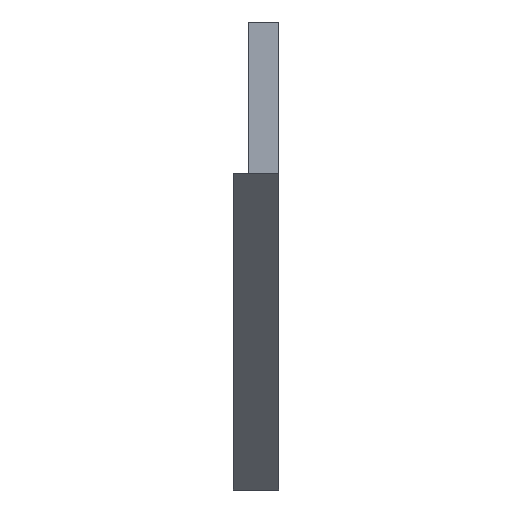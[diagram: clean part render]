
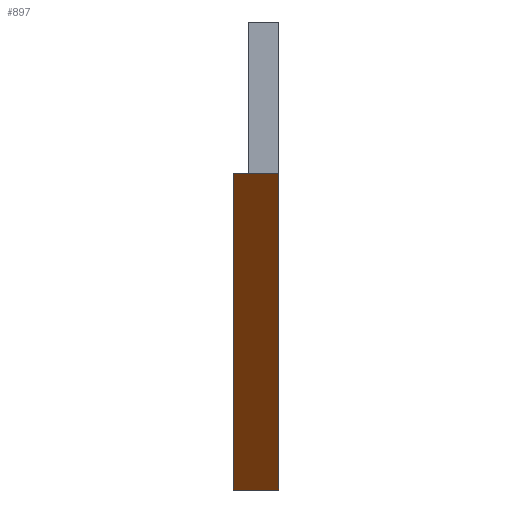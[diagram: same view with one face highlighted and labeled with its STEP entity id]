
A CAD part, front view. The second image highlights one B-rep face of the part: STEP entity #897.
In plain terms, the highlighted planar face has unit normal (0, -0.719, -0.695).
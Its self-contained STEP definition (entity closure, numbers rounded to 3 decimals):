
#4 = LINE ( 'NONE', #2026, #1257 ) ;
#29 = ORIENTED_EDGE ( 'NONE', *, *, #857, .T. ) ;
#87 = FACE_OUTER_BOUND ( 'NONE', #1597, .T. ) ;
#174 = CARTESIAN_POINT ( 'NONE',  ( 6., 101.209, -163.776 ) ) ;
#310 = EDGE_CURVE ( 'NONE', #1355, #470, #1044, .T. ) ;
#356 = ORIENTED_EDGE ( 'NONE', *, *, #1233, .T. ) ;
#408 = CARTESIAN_POINT ( 'NONE',  ( 21., -29.482, -28.479 ) ) ;
#417 = DIRECTION ( 'NONE',  ( 0., -0.695, 0.719 ) ) ;
#470 = VERTEX_POINT ( 'NONE', #1944 ) ;
#477 = DIRECTION ( 'NONE',  ( -1., 0., 0. ) ) ;
#580 = EDGE_CURVE ( 'NONE', #1355, #1964, #1345, .T. ) ;
#606 = VECTOR ( 'NONE', #417, 1000. ) ;
#670 = LINE ( 'NONE', #1246, #1908 ) ;
#701 = DIRECTION ( 'NONE',  ( 0., 0.695, -0.719 ) ) ;
#773 = ORIENTED_EDGE ( 'NONE', *, *, #580, .F. ) ;
#857 = EDGE_CURVE ( 'NONE', #1200, #1964, #4, .T. ) ;
#895 = VECTOR ( 'NONE', #2069, 1000. ) ;
#897 = ADVANCED_FACE ( 'NONE', ( #87 ), #1793, .T. ) ;
#967 = CARTESIAN_POINT ( 'NONE',  ( 21., -29.482, -28.479 ) ) ;
#1011 = ORIENTED_EDGE ( 'NONE', *, *, #310, .T. ) ;
#1044 = LINE ( 'NONE', #408, #606 ) ;
#1096 = CARTESIAN_POINT ( 'NONE',  ( 21., 101.209, -163.776 ) ) ;
#1127 = VECTOR ( 'NONE', #477, 1000. ) ;
#1135 = DIRECTION ( 'NONE',  ( 0., 0.695, -0.719 ) ) ;
#1162 = CARTESIAN_POINT ( 'NONE',  ( 11., 0., -59. ) ) ;
#1170 = CARTESIAN_POINT ( 'NONE',  ( 21., 101.209, -163.776 ) ) ;
#1176 = LINE ( 'NONE', #1306, #1127 ) ;
#1200 = VERTEX_POINT ( 'NONE', #1617 ) ;
#1233 = EDGE_CURVE ( 'NONE', #470, #1315, #1176, .T. ) ;
#1246 = CARTESIAN_POINT ( 'NONE',  ( 0., 0., -59. ) ) ;
#1257 = VECTOR ( 'NONE', #701, 1000. ) ;
#1304 = AXIS2_PLACEMENT_3D ( 'NONE', #967, #2114, #1135 ) ;
#1306 = CARTESIAN_POINT ( 'NONE',  ( 0., 0., -59. ) ) ;
#1315 = VERTEX_POINT ( 'NONE', #1162 ) ;
#1345 = LINE ( 'NONE', #1096, #895 ) ;
#1355 = VERTEX_POINT ( 'NONE', #1170 ) ;
#1416 = DIRECTION ( 'NONE',  ( 1., 0., 0. ) ) ;
#1597 = EDGE_LOOP ( 'NONE', ( #356, #1749, #29, #773, #1011 ) ) ;
#1617 = CARTESIAN_POINT ( 'NONE',  ( 6., 0., -59. ) ) ;
#1749 = ORIENTED_EDGE ( 'NONE', *, *, #2117, .F. ) ;
#1793 = PLANE ( 'NONE',  #1304 ) ;
#1908 = VECTOR ( 'NONE', #1416, 1000. ) ;
#1944 = CARTESIAN_POINT ( 'NONE',  ( 21., 0., -59. ) ) ;
#1964 = VERTEX_POINT ( 'NONE', #174 ) ;
#2026 = CARTESIAN_POINT ( 'NONE',  ( 6., -29.482, -28.479 ) ) ;
#2069 = DIRECTION ( 'NONE',  ( -1., 0., 0. ) ) ;
#2114 = DIRECTION ( 'NONE',  ( 0., -0.719, -0.695 ) ) ;
#2117 = EDGE_CURVE ( 'NONE', #1200, #1315, #670, .T. ) ;
